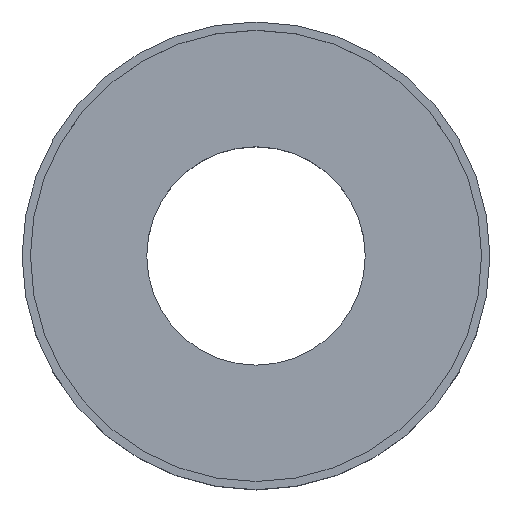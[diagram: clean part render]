
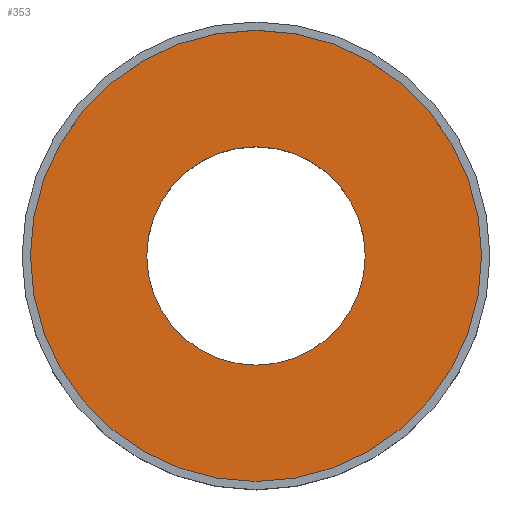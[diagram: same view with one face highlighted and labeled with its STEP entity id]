
A CAD part, top view. The second image highlights one B-rep face of the part: STEP entity #353.
In plain terms, the highlighted planar face has unit normal (0, 0, 1) as drawn and (0, 1, 0) by its records, which use the part's own axes.
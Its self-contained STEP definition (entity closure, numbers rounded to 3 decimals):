
#353=ADVANCED_FACE('0:213',(#877,#878),#879,.T.);
#877=FACE_OUTER_BOUND('',#1614,.T.);
#878=FACE_BOUND('',#1615,.T.);
#879=PLANE('',#1616);
#1614=EDGE_LOOP('',(#2661,#2662));
#1615=EDGE_LOOP('',(#2663,#2664));
#1616=AXIS2_PLACEMENT_3D('',#2665,#2666,#2667);
#2661=ORIENTED_EDGE('',*,*,#4380,.T.);
#2662=ORIENTED_EDGE('',*,*,#4381,.T.);
#2663=ORIENTED_EDGE('',*,*,#4382,.F.);
#2664=ORIENTED_EDGE('',*,*,#4383,.F.);
#2665=CARTESIAN_POINT('',(-30.739,17.305,0.805));
#2666=DIRECTION('',(0.,1.0,0.));
#2667=DIRECTION('',(1.0,0.0,0.));
#4380=EDGE_CURVE('0:720',#5260,#5261,#5262,.F.);
#4381=EDGE_CURVE('',#5261,#5260,#5263,.F.);
#4382=EDGE_CURVE('0:624',#5264,#5265,#5266,.T.);
#4383=EDGE_CURVE('',#5265,#5264,#5267,.T.);
#5260=VERTEX_POINT('',#6818);
#5261=VERTEX_POINT('',#6819);
#5262=CIRCLE('',#6820,40.8);
#5263=CIRCLE('',#6821,40.8);
#5264=VERTEX_POINT('',#6822);
#5265=VERTEX_POINT('',#6823);
#5266=CIRCLE('',#6824,19.75);
#5267=CIRCLE('',#6825,19.75);
#6818=CARTESIAN_POINT('',(-68.012,17.305,17.4));
#6819=CARTESIAN_POINT('',(6.533,17.305,-15.79));
#6820=AXIS2_PLACEMENT_3D('',#8525,#8526,#8527);
#6821=AXIS2_PLACEMENT_3D('',#8528,#8529,#8530);
#6822=CARTESIAN_POINT('',(-46.718,17.305,-10.804));
#6823=CARTESIAN_POINT('',(-14.761,17.305,12.414));
#6824=AXIS2_PLACEMENT_3D('',#8531,#8532,#8533);
#6825=AXIS2_PLACEMENT_3D('',#8534,#8535,#8536);
#8525=CARTESIAN_POINT('',(-30.739,17.305,0.805));
#8526=DIRECTION('',(0.,-1.0,0.));
#8527=DIRECTION('',(-0.914,0.,0.407));
#8528=CARTESIAN_POINT('',(-30.739,17.305,0.805));
#8529=DIRECTION('',(0.,-1.0,0.));
#8530=DIRECTION('',(-0.914,0.,0.407));
#8531=CARTESIAN_POINT('',(-30.739,17.305,0.805));
#8532=DIRECTION('',(0.,1.0,0.));
#8533=DIRECTION('',(-0.914,0.,0.407));
#8534=CARTESIAN_POINT('',(-30.739,17.305,0.805));
#8535=DIRECTION('',(0.,1.0,0.));
#8536=DIRECTION('',(-0.914,0.,0.407));
